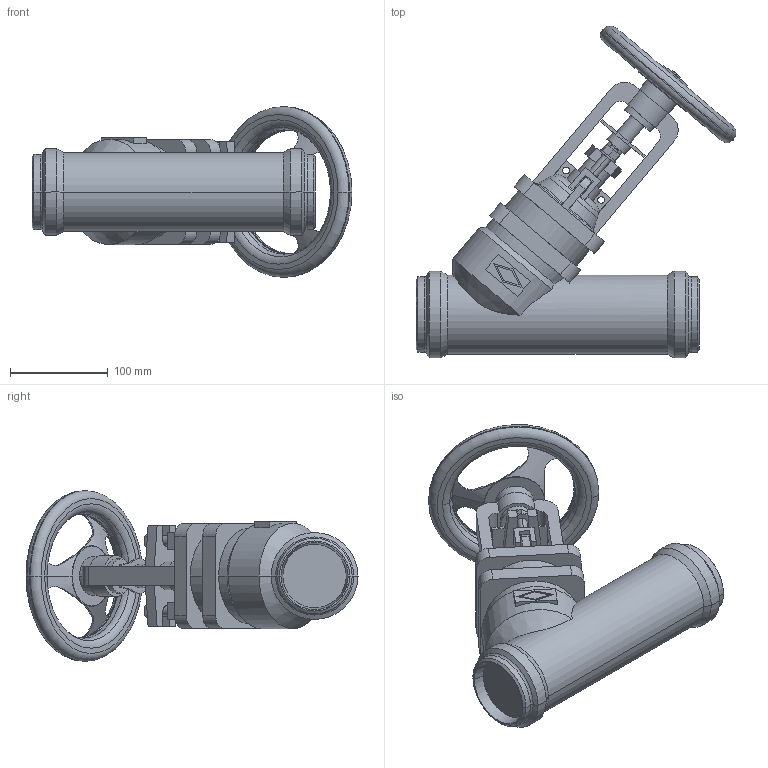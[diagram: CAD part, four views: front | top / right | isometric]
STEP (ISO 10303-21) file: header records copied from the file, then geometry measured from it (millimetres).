
FILE_DESCRIPTION(('OneSpaceDesigner STEP Export'),'2;1');
FILE_NAME('c000004352.stp','2010-05-10T10:57:17',(''),(''),'OneSpace Designer STEP processor for AP214 (Solid Model)','OneSpace Modeling 15.50B 03-Nov-2007 (C) CoCreate Software GmbH','');
FILE_SCHEMA(('AUTOMOTIVE_DESIGN { 1 0 10303 214 1 1 1 1 }'));
Length unit declared in the file: millimetre
Products named in the file (1): 1
Bounding box: 327.78 x 340.18 x 175 mm (x, y, z)
Volume: 2907364.2 mm3; surface area: 246002 mm2
Topology: 1 solids, 1 shells, 296 faces, 788 edges, 510 vertices
Faces by surface type: plane 135, cylinder 91, torus 40, cone 30
Entity records: 12084 total; most frequent: CARTESIAN_POINT 2746, ORIENTED_EDGE 1576, DIRECTION 1274, EDGE_CURVE 788, VERTEX_POINT 510, AXIS2_PLACEMENT_3D 439, VECTOR 396, LINE 396
